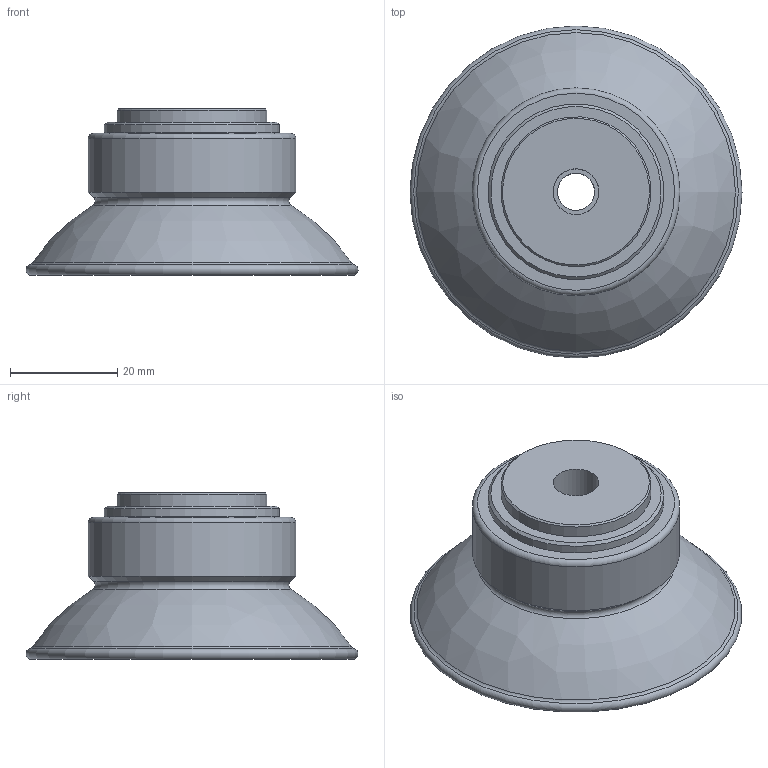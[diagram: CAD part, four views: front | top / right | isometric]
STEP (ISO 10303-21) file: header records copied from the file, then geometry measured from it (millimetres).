
FILE_DESCRIPTION( ( 'Unknown' ), '1' );
FILE_NAME( 'D:/弥龋覆(冠固急)/Smart Cup/寇何侩-唱荤魂TYPE/FCF60-18F.stp', 'Unknown', ( 'Unknown' ), ( 'Unknown' ), 'PSStep 10.0', 'Unknown', ' ' );
FILE_SCHEMA( ( 'AUTOMOTIVE_DESIGN { 1 0 10303 214 1 1 1 1 }' ) );
Length unit declared in the file: millimetre
Products named in the file (3): Assem1; FCF60; VDF-FCF-18F
Bounding box: 61.99 x 61.99 x 31.11 mm (x, y, z)
Volume: 48120.3 mm3; surface area: 36741.5 mm2
Topology: 4 solids, 4 shells, 118 faces, 204 edges, 118 vertices
Faces by surface type: cylinder 36, cone 32, plane 32, torus 12, bspline 6
Full cylindrical faces by diameter (mm): 6.928 x2, 7.5 x2, 8.566 x2, 9.5 x2, 16 x8, 16.8 x4, 28 x2, 30.8 x4, 32.8 x6, 38.8 x2, 49.446 x2
Entity records: 1785 total; most frequent: CARTESIAN_POINT 261, DIRECTION 236, AXIS2_PLACEMENT_3D 118, EDGE_LOOP 118, ORIENTED_EDGE 118, FACE_OUTER_BOUND 86, STYLED_ITEM 59, PRESENTATION_STYLE_ASSIGNMENT 59
